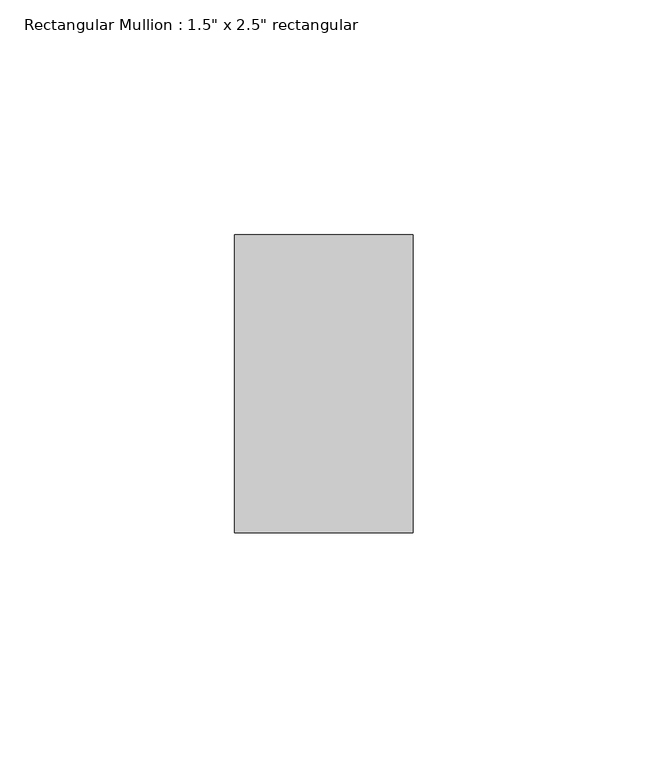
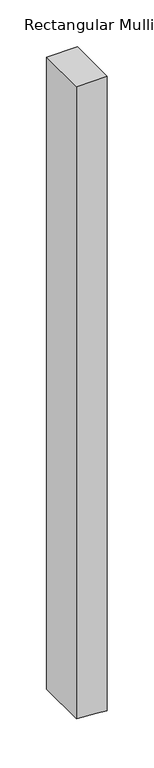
"""IFC4 building model written with IfcOpenShell, lengths in millimetres: member geometry."""

from ifc_helpers import new_model, si_unit, frame, origin, place, context, project, spatial, polyline, outline, extrude, source, transform, mapped, element, save


def member_f7e23fb3(model_context):
    return source(origin(), model_context, "Body", "SweptSolid", [
        extrude(outline(polyline([(0.0, 19.05), (0.0, -19.05), (-824.1295218, -19.05), (-825.9446464, 5.6555516), (-827.3562955, 19.05), (0.0, 19.05)])), frame((0.0, -31.75, 0.0), z_axis=(0.0, 1.0, 0.0), x_axis=(0.0, 0.0, 1.0)), (0.0, 0.0, 1.0), 63.5),
    ])


if __name__ == "__main__":
    model = new_model("IFC4")
    model_context = context("Model", 3, world=origin())
    ifc_project = project(units=[si_unit("LENGTHUNIT", "METRE", prefix="MILLI")], contexts=[model_context])
    site = spatial("IfcSite", under=ifc_project)
    building = spatial("IfcBuilding", under=site)
    placement = place(None, origin())
    member_shape = member_f7e23fb3(model_context)
    element("IfcMember", 1, ObjectType="Rectangular Mullion : 1.5\" x 2.5\" rectangular", at=placement, inside=building, context=model_context, shape_type="MappedRepresentation", body=[
        mapped(member_shape, transform((0.0, 0.0, 0.0), x_axis=(1.0, 0.0, 0.0), y_axis=(0.0, 1.0, 0.0), z_axis=(0.0, 0.0, 1.0))),
    ])
    save(model, "model.ifc")
